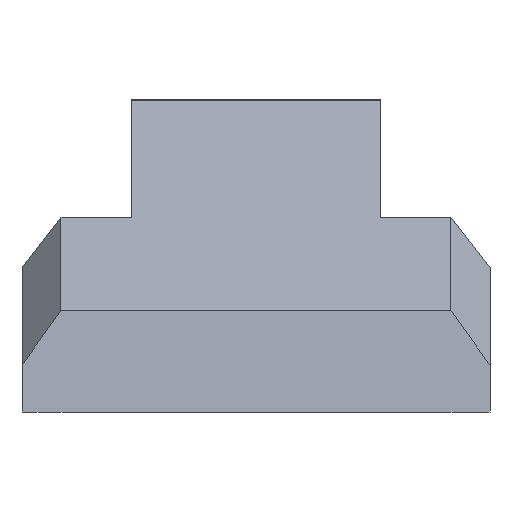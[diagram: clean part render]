
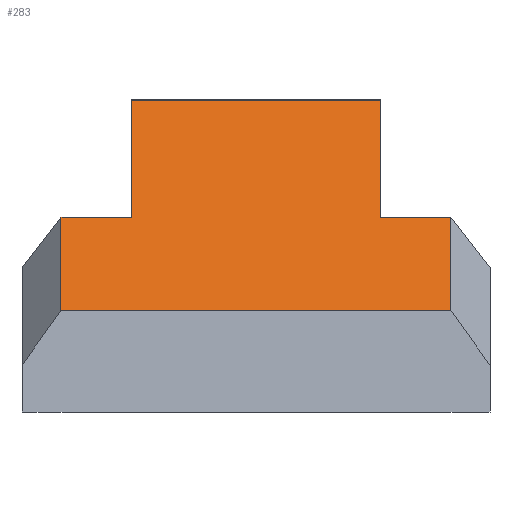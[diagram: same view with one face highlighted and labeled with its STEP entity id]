
A CAD part, front view. The second image highlights one B-rep face of the part: STEP entity #283.
In plain terms, the highlighted planar face has unit normal (0, -0.6, 0.8).
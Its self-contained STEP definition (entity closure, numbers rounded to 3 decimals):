
#1 = VERTEX_POINT ( 'NONE', #594 ) ;
#3 = AXIS2_PLACEMENT_3D ( 'NONE', #625, #346, #444 ) ;
#4 = CARTESIAN_POINT ( 'NONE',  ( -2.5, -8., 1. ) ) ;
#22 = LINE ( 'NONE', #356, #687 ) ;
#26 = VECTOR ( 'NONE', #271, 1000. ) ;
#28 = EDGE_CURVE ( 'NONE', #272, #1, #22, .T. ) ;
#40 = CARTESIAN_POINT ( 'NONE',  ( 1.6, -3.36, 4.48 ) ) ;
#48 = FACE_OUTER_BOUND ( 'NONE', #54, .T. ) ;
#49 = VERTEX_POINT ( 'NONE', #464 ) ;
#54 = EDGE_LOOP ( 'NONE', ( #607, #706, #148, #285, #256, #216, #426, #377 ) ) ;
#63 = EDGE_CURVE ( 'NONE', #159, #272, #696, .T. ) ;
#98 = CARTESIAN_POINT ( 'NONE',  ( -1.6, -6., 2.5 ) ) ;
#133 = LINE ( 'NONE', #468, #518 ) ;
#137 = VECTOR ( 'NONE', #207, 1000. ) ;
#148 = ORIENTED_EDGE ( 'NONE', *, *, #153, .T. ) ;
#153 = EDGE_CURVE ( 'NONE', #656, #680, #731, .T. ) ;
#159 = VERTEX_POINT ( 'NONE', #430 ) ;
#170 = VERTEX_POINT ( 'NONE', #539 ) ;
#181 = DIRECTION ( 'NONE',  ( -1., 0., 0. ) ) ;
#207 = DIRECTION ( 'NONE',  ( 1., 0., 0. ) ) ;
#216 = ORIENTED_EDGE ( 'NONE', *, *, #601, .F. ) ;
#256 = ORIENTED_EDGE ( 'NONE', *, *, #342, .F. ) ;
#271 = DIRECTION ( 'NONE',  ( 1., 0., 0. ) ) ;
#272 = VERTEX_POINT ( 'NONE', #456 ) ;
#283 = ADVANCED_FACE ( 'NONE', ( #48 ), #675, .F. ) ;
#285 = ORIENTED_EDGE ( 'NONE', *, *, #381, .T. ) ;
#318 = DIRECTION ( 'NONE',  ( -1., 0., 0. ) ) ;
#337 = EDGE_CURVE ( 'NONE', #556, #656, #679, .T. ) ;
#342 = EDGE_CURVE ( 'NONE', #170, #49, #402, .T. ) ;
#346 = DIRECTION ( 'NONE',  ( 0., 0.6, -0.8 ) ) ;
#356 = CARTESIAN_POINT ( 'NONE',  ( -1.6, -3.36, 4.48 ) ) ;
#377 = ORIENTED_EDGE ( 'NONE', *, *, #28, .T. ) ;
#381 = EDGE_CURVE ( 'NONE', #680, #49, #133, .T. ) ;
#390 = CARTESIAN_POINT ( 'NONE',  ( -2.5, -7.6, 1.3 ) ) ;
#402 = LINE ( 'NONE', #508, #26 ) ;
#410 = DIRECTION ( 'NONE',  ( 0., 0.8, 0.6 ) ) ;
#426 = ORIENTED_EDGE ( 'NONE', *, *, #63, .T. ) ;
#430 = CARTESIAN_POINT ( 'NONE',  ( 1.6, -4., 4. ) ) ;
#444 = DIRECTION ( 'NONE',  ( 0., 0.8, 0.6 ) ) ;
#452 = VECTOR ( 'NONE', #181, 1000. ) ;
#456 = CARTESIAN_POINT ( 'NONE',  ( -1.6, -4., 4. ) ) ;
#464 = CARTESIAN_POINT ( 'NONE',  ( 2.5, -6., 2.5 ) ) ;
#466 = VECTOR ( 'NONE', #318, 1000. ) ;
#468 = CARTESIAN_POINT ( 'NONE',  ( 2.5, -8., 1. ) ) ;
#494 = CARTESIAN_POINT ( 'NONE',  ( -2.5, -6., 2.5 ) ) ;
#505 = VECTOR ( 'NONE', #608, 1000. ) ;
#508 = CARTESIAN_POINT ( 'NONE',  ( 1.6, -6., 2.5 ) ) ;
#518 = VECTOR ( 'NONE', #410, 1000. ) ;
#523 = DIRECTION ( 'NONE',  ( 0., -0.8, -0.6 ) ) ;
#539 = CARTESIAN_POINT ( 'NONE',  ( 1.6, -6., 2.5 ) ) ;
#556 = VERTEX_POINT ( 'NONE', #494 ) ;
#562 = VECTOR ( 'NONE', #575, 1000. ) ;
#575 = DIRECTION ( 'NONE',  ( 0., -0.8, -0.6 ) ) ;
#594 = CARTESIAN_POINT ( 'NONE',  ( -1.6, -6., 2.5 ) ) ;
#601 = EDGE_CURVE ( 'NONE', #159, #170, #718, .T. ) ;
#604 = EDGE_CURVE ( 'NONE', #1, #556, #605, .T. ) ;
#605 = LINE ( 'NONE', #98, #466 ) ;
#607 = ORIENTED_EDGE ( 'NONE', *, *, #604, .T. ) ;
#608 = DIRECTION ( 'NONE',  ( 0., -0.8, -0.6 ) ) ;
#613 = CARTESIAN_POINT ( 'NONE',  ( 3., -7.6, 1.3 ) ) ;
#625 = CARTESIAN_POINT ( 'NONE',  ( 3., -8., 1. ) ) ;
#636 = CARTESIAN_POINT ( 'NONE',  ( 3., -4., 4. ) ) ;
#656 = VERTEX_POINT ( 'NONE', #390 ) ;
#675 = PLANE ( 'NONE',  #3 ) ;
#679 = LINE ( 'NONE', #4, #562 ) ;
#680 = VERTEX_POINT ( 'NONE', #742 ) ;
#687 = VECTOR ( 'NONE', #523, 1000. ) ;
#696 = LINE ( 'NONE', #636, #452 ) ;
#706 = ORIENTED_EDGE ( 'NONE', *, *, #337, .T. ) ;
#718 = LINE ( 'NONE', #40, #505 ) ;
#731 = LINE ( 'NONE', #613, #137 ) ;
#742 = CARTESIAN_POINT ( 'NONE',  ( 2.5, -7.6, 1.3 ) ) ;
